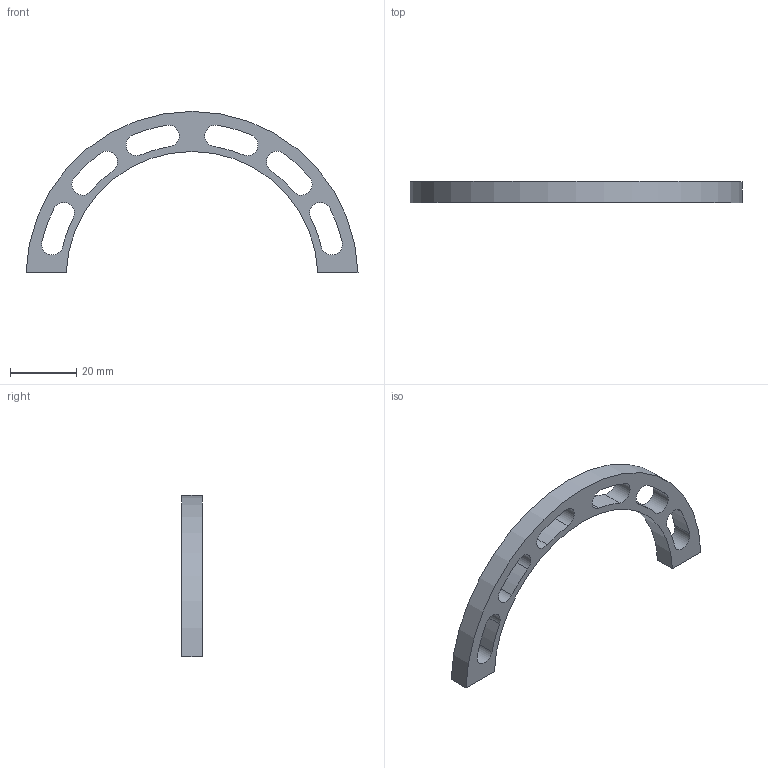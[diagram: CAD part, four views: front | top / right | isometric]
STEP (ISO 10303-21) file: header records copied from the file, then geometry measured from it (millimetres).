
FILE_DESCRIPTION(/* description */ (''),/* implementation_level */ '2;1');
FILE_NAME(/* name */ '2504_ePic_arc_L0.stp',/* time_stamp */ '2025-05-05T16:35:09+02:00',/* author */ (''),/* organization */ (''),/* preprocessor_version */ 'ST-DEVELOPER v19.4',/* originating_system */ 'SIEMENS PLM Software NX2306.5001',/* authorisation */ '');
FILE_SCHEMA (('AP203_CONFIGURATION_CONTROLLED_3D_DESIGN_OF_MECHANICAL_PARTS_AND_ASSEMBLIES_MIM_LF { 1 0 10303 403 2 1 2}'));
Length unit declared in the file: millimetre
Products named in the file (1): ePic-L0_HalfRingsSensor&Longerons.v1-Ring_dwg_objects
Bounding box: 100.56 x 6.35 x 48.8 mm (x, y, z)
Volume: 6741.6 mm3; surface area: 5545.8 mm2
Topology: 1 solids, 1 shells, 30 faces, 84 edges, 56 vertices
Faces by surface type: cylinder 26, plane 4
Entity records: 1110 total; most frequent: DIRECTION 198, CARTESIAN_POINT 171, ORIENTED_EDGE 168, EDGE_CURVE 84, AXIS2_PLACEMENT_3D 83, VERTEX_POINT 56, CIRCLE 52, EDGE_LOOP 42
